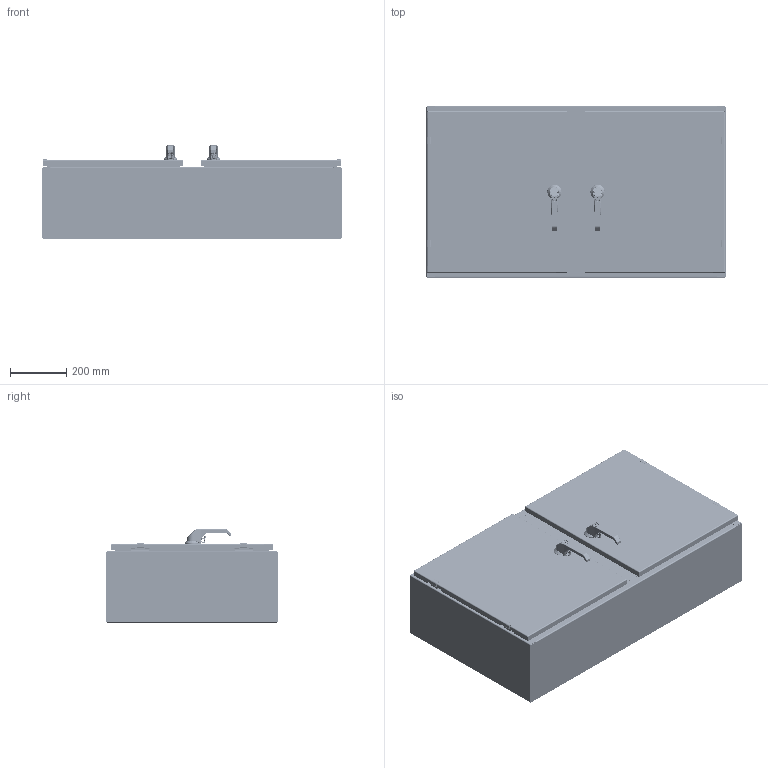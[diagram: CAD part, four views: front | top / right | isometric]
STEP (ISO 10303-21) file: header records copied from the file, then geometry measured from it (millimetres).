
FILE_DESCRIPTION((''),'2;1');
FILE_NAME('MODEL-326_ASM','2026-07-01T13:48:29',('joshi'),('SAGINAW CONTROL & ENGINEERING'),'CREO PARAMETRIC BY PTC INC, 2021284','CREO PARAMETRIC BY PTC INC, 2021284','');
FILE_SCHEMA(('AUTOMOTIVE_DESIGN { 1 0 10303 214 1 1 1 1 }'));
Length unit declared in the file: inch
Products named in the file (74): MODEL-326-BDY; MODEL-326-TP; MODEL-326-BTM; 128377; 100041; 128377_ASM; MODEL-326-CCA-CHNL; 100067; 128025; 128380; 102535; MODEL-326-CCASSY_ASM; MODEL-326-R-DR; 100837; 100882; 111541; 100955_SCREW_MTG; 100955_PADLOCK_CATCH; 100955_SCREW_LARGE; 100955_INSERT_SHAFT; 100955_INSERT_PKH; 100955_GASKET; 100955_O-RING; 100955_BASE; 100955_SPRING; 100955_HANDLE; 100955_CAM_SHAFT; 100955_HANDLE_ASM; 100955_CAM_ADAPTER; 100955_EARTH_NUT; 100955_FLANGE_NUT; 100955_CAM_NUT; 100955_KEY_INSERT; 100955_SPRING_CAM; 100955_TORSION_SPRING; 100955_SCREW_INSERT; 100955_ASM; 128142; 100030; 128142_ASM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
Assembly tree (166 placements, depth 5):
  MODEL-326_ASM
    MODEL-326-BDY
    MODEL-326-TP
    MODEL-326-BTM
    128377_ASM  x2
      128377
      100041
    MODEL-326-CCASSY_ASM
      MODEL-326-CCA-CHNL
      100067  x2
      128025  x2
      128380  x2
      102535  x8
    MODEL-326-RIGHT-DR-ASSY_ASM
      MODEL-326-R-DR
      100837  x5
      100882  x4
      111541
      100955_ASM
        100955_SCREW_MTG
        100955_PADLOCK_CATCH
        100955_SCREW_LARGE  x2
        100955_INSERT_SHAFT
        100955_INSERT_PKH
        100955_GASKET
        100955_O-RING
        100955_BASE
        100955_SPRING
        100955_HANDLE_ASM
          100955_HANDLE
          100955_CAM_SHAFT
        100955_CAM_ADAPTER
        100955_EARTH_NUT
        100955_FLANGE_NUT
        100955_CAM_NUT
        100955_KEY_INSERT
        100955_SPRING_CAM
        100955_TORSION_SPRING
        100955_SCREW_INSERT
      128142_ASM
        128142
        100030  x2
      MODEL-326-ROD-UPR-RD_ASM
        MODEL-326-ROD-UPR-RD
        128146
        128145
        128144
        102482  x2
      128143  x2
      112504  x2
      MODEL-326-ROD-LWR-RD_ASM
        MODEL-326-ROD-LWR-RD
        128146
        128145
        128144
        102482  x2
      MODEL-326-GSKT-R-DR
      126392_ASM  x2
        126392
      126395  x2
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Bounding box: 1066.8 x 609.6 x 332.5 mm (x, y, z)
Volume: 7355749.9 mm3; surface area: 6562258.5 mm2
Topology: 197 solids, 201 shells, 17146 faces, 42814 edges, 25992 vertices
Faces by surface type: plane 6109, cylinder 4525, bspline 3020, torus 1566, cone 1262, sphere 604, extrusion 60
Entity records: 371680 total; most frequent: CARTESIAN_POINT 148063, ORIENTED_EDGE 34614, DIRECTION 31600, PRESENTATION_STYLE_ASSIGNMENT 17383, STYLED_ITEM 17376, CURVE_STYLE 17307, EDGE_CURVE 17307, AXIS2_PLACEMENT_3D 11656
